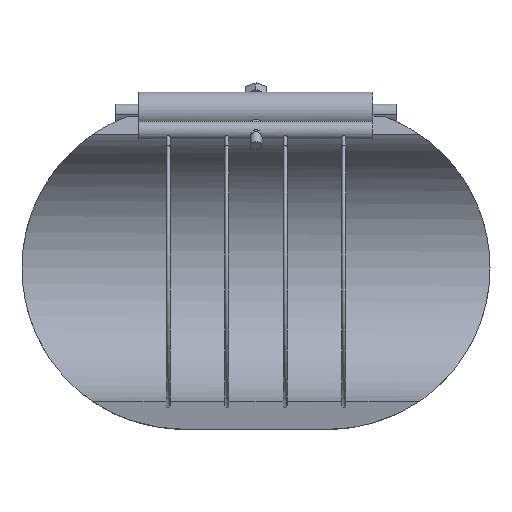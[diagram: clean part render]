
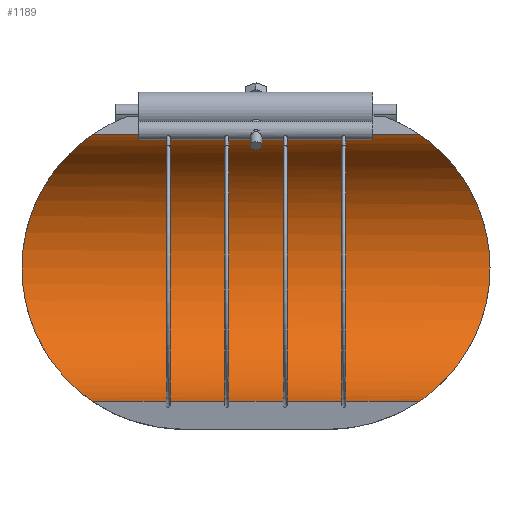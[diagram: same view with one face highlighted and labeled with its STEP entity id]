
A CAD part, front view. The second image highlights one B-rep face of the part: STEP entity #1189.
In plain terms, the highlighted cylindrical face has radius 70 mm (diameter 140 mm), a partial arc.
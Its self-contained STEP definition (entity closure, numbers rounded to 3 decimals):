
#125=FACE_OUTER_BOUND('',#203,.T.);
#203=EDGE_LOOP('',(#1060,#1061,#1062,#1063,#1064,#1065,#1066,#1067,#1068,
#1069));
#254=B_SPLINE_CURVE_WITH_KNOTS('',3,(#2674,#2675,#2676,#2677,#2678,#2679,
#2680,#2681,#2682,#2683,#2684,#2685,#2686,#2687,#2688,#2689,#2690,#2691),
 .UNSPECIFIED.,.F.,.F.,(4,2,2,2,2,2,2,2,4),(24.141,24.36,
25.822,27.285,28.747,30.147,31.547,
32.947,34.347),.UNSPECIFIED.);
#255=B_SPLINE_CURVE_WITH_KNOTS('',3,(#2692,#2693,#2694,#2695,#2696,#2697,
#2698,#2699,#2700,#2701,#2702,#2703,#2704,#2705,#2706,#2707,#2708,#2709),
 .UNSPECIFIED.,.F.,.F.,(4,2,2,2,2,2,2,2,4),(34.347,35.747,
37.147,38.547,39.947,41.409,42.871,
44.333,44.552),.UNSPECIFIED.);
#260=B_SPLINE_CURVE_WITH_KNOTS('',3,(#2821,#2822,#2823,#2824,#2825,#2826,
#2827,#2828,#2829,#2830,#2831,#2832,#2833,#2834,#2835,#2836,#2837,#2838),
 .UNSPECIFIED.,.F.,.F.,(4,2,2,2,2,2,2,2,4),(1.244,1.462,
2.925,4.387,5.849,7.249,8.649,
10.049,11.449),.UNSPECIFIED.);
#261=B_SPLINE_CURVE_WITH_KNOTS('',3,(#2840,#2841,#2842,#2843,#2844,#2845,
#2846,#2847,#2848,#2849,#2850,#2851,#2852,#2853,#2854,#2855,#2856,#2857),
 .UNSPECIFIED.,.F.,.F.,(4,2,2,2,2,2,2,2,4),(11.449,12.849,
14.249,15.649,17.049,18.511,19.973,
21.436,21.654),.UNSPECIFIED.);
#338=LINE('',#1983,#399);
#339=LINE('',#1986,#400);
#340=LINE('',#1989,#401);
#341=LINE('',#1991,#402);
#342=LINE('',#1992,#403);
#386=LINE('',#2899,#447);
#399=VECTOR('',#1398,10.);
#400=VECTOR('',#1401,10.);
#401=VECTOR('',#1404,10.);
#402=VECTOR('',#1407,10.);
#403=VECTOR('',#1408,10.);
#447=VECTOR('',#1648,10.);
#475=VERTEX_POINT('',#1971);
#477=VERTEX_POINT('',#1976);
#479=VERTEX_POINT('',#1980);
#480=VERTEX_POINT('',#1982);
#481=VERTEX_POINT('',#1985);
#482=VERTEX_POINT('',#1988);
#552=VERTEX_POINT('',#2671);
#553=VERTEX_POINT('',#2673);
#558=VERTEX_POINT('',#2820);
#559=VERTEX_POINT('',#2839);
#600=EDGE_CURVE('',#480,#479,#338,.T.);
#602=EDGE_CURVE('',#481,#480,#339,.T.);
#604=EDGE_CURVE('',#482,#481,#340,.T.);
#606=EDGE_CURVE('',#475,#482,#341,.T.);
#607=EDGE_CURVE('',#477,#475,#342,.T.);
#725=EDGE_CURVE('',#552,#553,#254,.T.);
#726=EDGE_CURVE('',#553,#479,#255,.T.);
#731=EDGE_CURVE('',#477,#558,#260,.T.);
#732=EDGE_CURVE('',#558,#559,#261,.T.);
#736=EDGE_CURVE('',#552,#559,#386,.T.);
#1060=ORIENTED_EDGE('',*,*,#731,.F.);
#1061=ORIENTED_EDGE('',*,*,#607,.T.);
#1062=ORIENTED_EDGE('',*,*,#606,.T.);
#1063=ORIENTED_EDGE('',*,*,#604,.T.);
#1064=ORIENTED_EDGE('',*,*,#602,.T.);
#1065=ORIENTED_EDGE('',*,*,#600,.T.);
#1066=ORIENTED_EDGE('',*,*,#726,.F.);
#1067=ORIENTED_EDGE('',*,*,#725,.F.);
#1068=ORIENTED_EDGE('',*,*,#736,.T.);
#1069=ORIENTED_EDGE('',*,*,#732,.F.);
#1130=CYLINDRICAL_SURFACE('',#1337,70.);
#1189=ADVANCED_FACE('',(#125),#1130,.F.);
#1337=AXIS2_PLACEMENT_3D('',#2898,#1646,#1647);
#1398=DIRECTION('',(1.,0.,0.));
#1401=DIRECTION('',(1.,0.,0.));
#1404=DIRECTION('',(1.,0.,0.));
#1407=DIRECTION('',(1.,0.,0.));
#1408=DIRECTION('',(1.,0.,0.));
#1646=DIRECTION('center_axis',(1.,0.,0.));
#1647=DIRECTION('ref_axis',(0.,1.,0.));
#1648=DIRECTION('',(-1.,0.,0.));
#1971=CARTESIAN_POINT('',(-45.375,12.155,-68.937));
#1976=CARTESIAN_POINT('',(-84.55,12.155,-68.937));
#1980=CARTESIAN_POINT('',(84.55,12.155,-68.937));
#1982=CARTESIAN_POINT('',(45.375,12.155,-68.937));
#1983=CARTESIAN_POINT('',(0.,12.155,-68.937));
#1985=CARTESIAN_POINT('',(15.125,12.155,-68.937));
#1986=CARTESIAN_POINT('',(0.,12.155,-68.937));
#1988=CARTESIAN_POINT('',(-15.125,12.155,-68.937));
#1989=CARTESIAN_POINT('',(0.,12.155,-68.937));
#1991=CARTESIAN_POINT('',(0.,12.155,-68.937));
#1992=CARTESIAN_POINT('',(0.,12.155,-68.937));
#2671=CARTESIAN_POINT('',(84.55,12.155,68.937));
#2673=CARTESIAN_POINT('',(121.,70.,0.));
#2674=CARTESIAN_POINT('Ctrl Pts',(84.55,12.155,68.937));
#2675=CARTESIAN_POINT('Ctrl Pts',(84.729,12.849,68.814));
#2676=CARTESIAN_POINT('Ctrl Pts',(84.922,13.539,68.682));
#2677=CARTESIAN_POINT('Ctrl Pts',(86.5,18.813,67.587));
#2678=CARTESIAN_POINT('Ctrl Pts',(88.425,23.231,66.19));
#2679=CARTESIAN_POINT('Ctrl Pts',(92.773,31.633,62.612));
#2680=CARTESIAN_POINT('Ctrl Pts',(95.194,35.619,60.426));
#2681=CARTESIAN_POINT('Ctrl Pts',(100.045,43.024,55.398));
#2682=CARTESIAN_POINT('Ctrl Pts',(102.473,46.441,52.554));
#2683=CARTESIAN_POINT('Ctrl Pts',(106.884,52.423,46.571));
#2684=CARTESIAN_POINT('Ctrl Pts',(109.043,55.233,43.236));
#2685=CARTESIAN_POINT('Ctrl Pts',(113.015,60.283,35.86));
#2686=CARTESIAN_POINT('Ctrl Pts',(114.826,62.524,31.819));
#2687=CARTESIAN_POINT('Ctrl Pts',(117.824,66.192,23.246));
#2688=CARTESIAN_POINT('Ctrl Pts',(119.013,67.622,18.703));
#2689=CARTESIAN_POINT('Ctrl Pts',(120.601,69.526,9.414));
#2690=CARTESIAN_POINT('Ctrl Pts',(121.,70.,4.666));
#2691=CARTESIAN_POINT('Ctrl Pts',(121.,70.,0.));
#2692=CARTESIAN_POINT('Ctrl Pts',(121.,70.,0.));
#2693=CARTESIAN_POINT('Ctrl Pts',(121.,70.,-4.666));
#2694=CARTESIAN_POINT('Ctrl Pts',(120.601,69.526,-9.414));
#2695=CARTESIAN_POINT('Ctrl Pts',(119.013,67.622,-18.703));
#2696=CARTESIAN_POINT('Ctrl Pts',(117.824,66.192,-23.246));
#2697=CARTESIAN_POINT('Ctrl Pts',(114.826,62.524,-31.819));
#2698=CARTESIAN_POINT('Ctrl Pts',(113.015,60.283,-35.86));
#2699=CARTESIAN_POINT('Ctrl Pts',(109.043,55.233,-43.236));
#2700=CARTESIAN_POINT('Ctrl Pts',(106.884,52.423,-46.571));
#2701=CARTESIAN_POINT('Ctrl Pts',(102.473,46.441,-52.554));
#2702=CARTESIAN_POINT('Ctrl Pts',(100.045,43.024,-55.398));
#2703=CARTESIAN_POINT('Ctrl Pts',(95.194,35.619,-60.426));
#2704=CARTESIAN_POINT('Ctrl Pts',(92.773,31.633,-62.612));
#2705=CARTESIAN_POINT('Ctrl Pts',(88.425,23.231,-66.19));
#2706=CARTESIAN_POINT('Ctrl Pts',(86.5,18.813,-67.587));
#2707=CARTESIAN_POINT('Ctrl Pts',(84.922,13.539,-68.682));
#2708=CARTESIAN_POINT('Ctrl Pts',(84.729,12.849,-68.814));
#2709=CARTESIAN_POINT('Ctrl Pts',(84.55,12.155,-68.937));
#2820=CARTESIAN_POINT('',(-121.,70.,0.));
#2821=CARTESIAN_POINT('Ctrl Pts',(-84.55,12.155,-68.937));
#2822=CARTESIAN_POINT('Ctrl Pts',(-84.729,12.849,-68.814));
#2823=CARTESIAN_POINT('Ctrl Pts',(-84.922,13.539,-68.682));
#2824=CARTESIAN_POINT('Ctrl Pts',(-86.5,18.813,-67.587));
#2825=CARTESIAN_POINT('Ctrl Pts',(-88.425,23.231,-66.19));
#2826=CARTESIAN_POINT('Ctrl Pts',(-92.773,31.633,-62.612));
#2827=CARTESIAN_POINT('Ctrl Pts',(-95.194,35.619,-60.426));
#2828=CARTESIAN_POINT('Ctrl Pts',(-100.045,43.024,-55.398));
#2829=CARTESIAN_POINT('Ctrl Pts',(-102.473,46.441,-52.554));
#2830=CARTESIAN_POINT('Ctrl Pts',(-106.884,52.423,-46.571));
#2831=CARTESIAN_POINT('Ctrl Pts',(-109.043,55.233,-43.236));
#2832=CARTESIAN_POINT('Ctrl Pts',(-113.015,60.283,-35.86));
#2833=CARTESIAN_POINT('Ctrl Pts',(-114.826,62.524,-31.819));
#2834=CARTESIAN_POINT('Ctrl Pts',(-117.824,66.192,-23.246));
#2835=CARTESIAN_POINT('Ctrl Pts',(-119.013,67.622,-18.703));
#2836=CARTESIAN_POINT('Ctrl Pts',(-120.601,69.526,-9.414));
#2837=CARTESIAN_POINT('Ctrl Pts',(-121.,70.,-4.666));
#2838=CARTESIAN_POINT('Ctrl Pts',(-121.,70.,0.));
#2839=CARTESIAN_POINT('',(-84.55,12.155,68.937));
#2840=CARTESIAN_POINT('Ctrl Pts',(-121.,70.,0.));
#2841=CARTESIAN_POINT('Ctrl Pts',(-121.,70.,4.666));
#2842=CARTESIAN_POINT('Ctrl Pts',(-120.601,69.526,9.414));
#2843=CARTESIAN_POINT('Ctrl Pts',(-119.013,67.622,18.703));
#2844=CARTESIAN_POINT('Ctrl Pts',(-117.824,66.192,23.246));
#2845=CARTESIAN_POINT('Ctrl Pts',(-114.826,62.524,31.819));
#2846=CARTESIAN_POINT('Ctrl Pts',(-113.015,60.283,35.86));
#2847=CARTESIAN_POINT('Ctrl Pts',(-109.043,55.233,43.236));
#2848=CARTESIAN_POINT('Ctrl Pts',(-106.884,52.423,46.571));
#2849=CARTESIAN_POINT('Ctrl Pts',(-102.473,46.441,52.554));
#2850=CARTESIAN_POINT('Ctrl Pts',(-100.045,43.024,55.398));
#2851=CARTESIAN_POINT('Ctrl Pts',(-95.194,35.619,60.426));
#2852=CARTESIAN_POINT('Ctrl Pts',(-92.773,31.633,62.612));
#2853=CARTESIAN_POINT('Ctrl Pts',(-88.425,23.231,66.19));
#2854=CARTESIAN_POINT('Ctrl Pts',(-86.5,18.813,67.587));
#2855=CARTESIAN_POINT('Ctrl Pts',(-84.922,13.539,68.682));
#2856=CARTESIAN_POINT('Ctrl Pts',(-84.729,12.849,68.814));
#2857=CARTESIAN_POINT('Ctrl Pts',(-84.55,12.155,68.937));
#2898=CARTESIAN_POINT('Origin',(0.,0.,0.));
#2899=CARTESIAN_POINT('',(0.,12.155,68.937));
